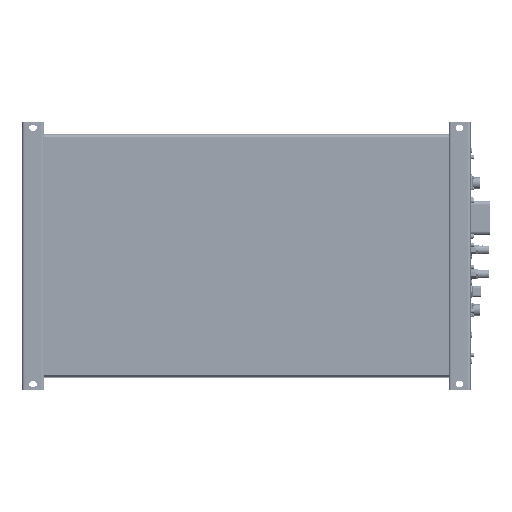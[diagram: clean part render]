
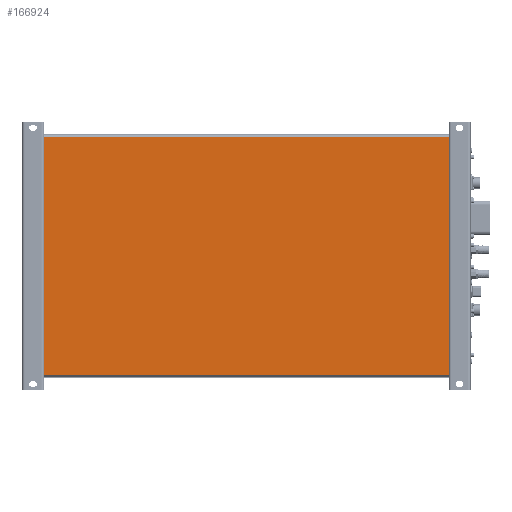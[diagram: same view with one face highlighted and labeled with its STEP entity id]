
A CAD part, front view. The second image highlights one B-rep face of the part: STEP entity #166924.
In plain terms, the highlighted planar face has unit normal (0, -1, 0).
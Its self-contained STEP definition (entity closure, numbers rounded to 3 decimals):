
#10975 = CARTESIAN_POINT ( 'NONE',  ( -461.304, 0., 271. ) ) ;
#13295 = VERTEX_POINT ( 'NONE', #196993 ) ;
#14428 = FACE_OUTER_BOUND ( 'NONE', #27998, .T. ) ;
#23163 = LINE ( 'NONE', #134196, #76488 ) ;
#27998 = EDGE_LOOP ( 'NONE', ( #64814, #185297, #155701, #134350 ) ) ;
#29420 = EDGE_CURVE ( 'NONE', #196304, #13295, #103277, .T. ) ;
#31187 = DIRECTION ( 'NONE',  ( 0., 1., 0. ) ) ;
#37803 = LINE ( 'NONE', #196922, #144043 ) ;
#37937 = EDGE_CURVE ( 'NONE', #173499, #191448, #97995, .T. ) ;
#51806 = AXIS2_PLACEMENT_3D ( 'NONE', #112924, #31187, #95040 ) ;
#56075 = CARTESIAN_POINT ( 'NONE',  ( 461.304, 0., 304. ) ) ;
#61798 = EDGE_CURVE ( 'NONE', #173499, #13295, #23163, .T. ) ;
#64814 = ORIENTED_EDGE ( 'NONE', *, *, #37937, .F. ) ;
#74871 = VECTOR ( 'NONE', #99211, 1000. ) ;
#76488 = VECTOR ( 'NONE', #150908, 1000. ) ;
#95040 = DIRECTION ( 'NONE',  ( -1., 0., 0. ) ) ;
#97995 = LINE ( 'NONE', #101083, #171987 ) ;
#99211 = DIRECTION ( 'NONE',  ( 0., 0., -1. ) ) ;
#101083 = CARTESIAN_POINT ( 'NONE',  ( -461.304, 0., 304. ) ) ;
#103277 = LINE ( 'NONE', #56075, #74871 ) ;
#110826 = PLANE ( 'NONE',  #51806 ) ;
#112924 = CARTESIAN_POINT ( 'NONE',  ( -507.5, 0., -271. ) ) ;
#121499 = CARTESIAN_POINT ( 'NONE',  ( 461.304, 0., 271. ) ) ;
#121554 = DIRECTION ( 'NONE',  ( 1., 0., 0. ) ) ;
#134196 = CARTESIAN_POINT ( 'NONE',  ( -507.5, 0., -271. ) ) ;
#134350 = ORIENTED_EDGE ( 'NONE', *, *, #186366, .F. ) ;
#144043 = VECTOR ( 'NONE', #121554, 1000. ) ;
#149178 = DIRECTION ( 'NONE',  ( 0., 0., 1. ) ) ;
#150908 = DIRECTION ( 'NONE',  ( 1., 0., 0. ) ) ;
#155701 = ORIENTED_EDGE ( 'NONE', *, *, #29420, .F. ) ;
#166924 = ADVANCED_FACE ( 'NONE', ( #14428 ), #110826, .F. ) ;
#171987 = VECTOR ( 'NONE', #149178, 1000. ) ;
#173499 = VERTEX_POINT ( 'NONE', #183652 ) ;
#183652 = CARTESIAN_POINT ( 'NONE',  ( -461.304, 0., -271. ) ) ;
#185297 = ORIENTED_EDGE ( 'NONE', *, *, #61798, .T. ) ;
#186366 = EDGE_CURVE ( 'NONE', #191448, #196304, #37803, .T. ) ;
#191448 = VERTEX_POINT ( 'NONE', #10975 ) ;
#196304 = VERTEX_POINT ( 'NONE', #121499 ) ;
#196922 = CARTESIAN_POINT ( 'NONE',  ( -507.5, 0., 271. ) ) ;
#196993 = CARTESIAN_POINT ( 'NONE',  ( 461.304, 0., -271. ) ) ;
